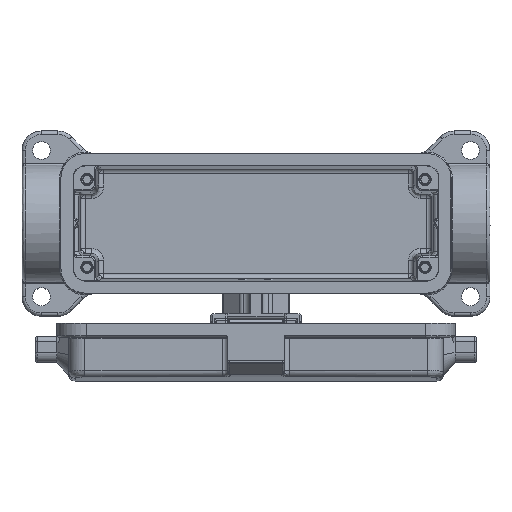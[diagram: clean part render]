
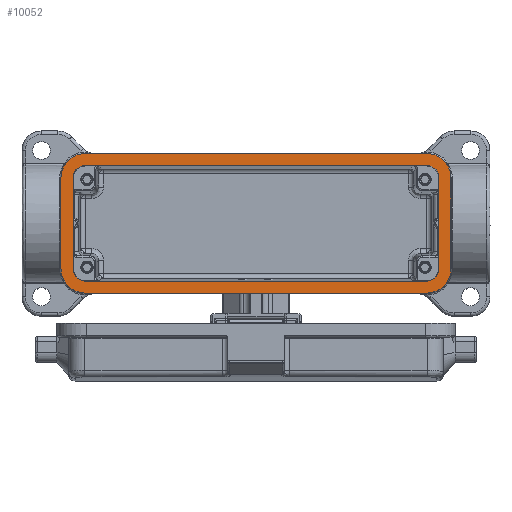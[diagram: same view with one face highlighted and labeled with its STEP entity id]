
A CAD part, top view. The second image highlights one B-rep face of the part: STEP entity #10052.
In plain terms, the highlighted planar face has unit normal (0, 0, 1) as drawn and (0, -1, 0) by its records, which use the part's own axes.
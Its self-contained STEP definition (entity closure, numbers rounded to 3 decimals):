
#439 = AXIS2_PLACEMENT_3D ( 'NONE', #68132, #91449, #127993 ) ;
#1528 = CARTESIAN_POINT ( 'NONE',  ( -14., 0., -60. ) ) ;
#1862 = EDGE_CURVE ( 'NONE', #65655, #12103, #150666, .T. ) ;
#2056 = DIRECTION ( 'NONE',  ( 0., 0., -1. ) ) ;
#2497 = CARTESIAN_POINT ( 'NONE',  ( -14., 0., -56.3 ) ) ;
#3008 = EDGE_CURVE ( 'NONE', #55936, #139592, #142916, .T. ) ;
#3727 = DIRECTION ( 'NONE',  ( -1., 0., 0. ) ) ;
#4772 = CIRCLE ( 'NONE', #9766, 7.5 ) ;
#5266 = DIRECTION ( 'NONE',  ( 0., 0., 1. ) ) ;
#5955 = DIRECTION ( 'NONE',  ( 0., 1., 0. ) ) ;
#7288 = DIRECTION ( 'NONE',  ( 0., 0., 1. ) ) ;
#9766 = AXIS2_PLACEMENT_3D ( 'NONE', #147533, #123233, #2056 ) ;
#10052 = ADVANCED_FACE ( 'NONE', ( #25237, #148206 ), #87172, .F. ) ;
#11899 = CARTESIAN_POINT ( 'NONE',  ( 0., 0., 60. ) ) ;
#12004 = CARTESIAN_POINT ( 'NONE',  ( -21.5, 0., 52.5 ) ) ;
#12008 = AXIS2_PLACEMENT_3D ( 'NONE', #78158, #41139, #53306 ) ;
#12103 = VERTEX_POINT ( 'NONE', #86994 ) ;
#15625 = CARTESIAN_POINT ( 'NONE',  ( -21.5, 0., -52.5 ) ) ;
#17872 = CARTESIAN_POINT ( 'NONE',  ( -21.5, 0., 0. ) ) ;
#19612 = EDGE_CURVE ( 'NONE', #73640, #115511, #28463, .T. ) ;
#20273 = VERTEX_POINT ( 'NONE', #66301 ) ;
#23162 = VERTEX_POINT ( 'NONE', #1528 ) ;
#24056 = EDGE_CURVE ( 'NONE', #46808, #60712, #54737, .T. ) ;
#25237 = FACE_BOUND ( 'NONE', #121947, .T. ) ;
#25521 = DIRECTION ( 'NONE',  ( 0., -1., 0. ) ) ;
#26453 = VERTEX_POINT ( 'NONE', #117655 ) ;
#28463 = LINE ( 'NONE', #11899, #34089 ) ;
#34089 = VECTOR ( 'NONE', #72191, 1000. ) ;
#36641 = DIRECTION ( 'NONE',  ( 1., 0., 0. ) ) ;
#37701 = DIRECTION ( 'NONE',  ( 0., 0., 1. ) ) ;
#38533 = CARTESIAN_POINT ( 'NONE',  ( 17.8, 0., -52.5 ) ) ;
#38611 = CIRCLE ( 'NONE', #70167, 3.8 ) ;
#38891 = VECTOR ( 'NONE', #79340, 1000. ) ;
#38955 = ORIENTED_EDGE ( 'NONE', *, *, #3008, .F. ) ;
#40958 = DIRECTION ( 'NONE',  ( -1., 0., 0. ) ) ;
#41139 = DIRECTION ( 'NONE',  ( 0., 1., 0. ) ) ;
#44988 = VECTOR ( 'NONE', #36641, 1000. ) ;
#46448 = CARTESIAN_POINT ( 'NONE',  ( 21.5, 0., -52.5 ) ) ;
#46808 = VERTEX_POINT ( 'NONE', #15625 ) ;
#47989 = VECTOR ( 'NONE', #82212, 1000. ) ;
#48242 = ORIENTED_EDGE ( 'NONE', *, *, #127050, .F. ) ;
#49062 = VECTOR ( 'NONE', #40958, 1000. ) ;
#49323 = AXIS2_PLACEMENT_3D ( 'NONE', #135849, #112544, #73930 ) ;
#49843 = CARTESIAN_POINT ( 'NONE',  ( 0., 0., -56.3 ) ) ;
#50190 = CIRCLE ( 'NONE', #104092, 7.5 ) ;
#53306 = DIRECTION ( 'NONE',  ( 0., 0., 1. ) ) ;
#54737 = LINE ( 'NONE', #17872, #67936 ) ;
#55798 = CIRCLE ( 'NONE', #146493, 3.8 ) ;
#55936 = VERTEX_POINT ( 'NONE', #129270 ) ;
#56068 = AXIS2_PLACEMENT_3D ( 'NONE', #102771, #5955, #150393 ) ;
#56654 = CARTESIAN_POINT ( 'NONE',  ( -17.8, 0., 52.5 ) ) ;
#57472 = CARTESIAN_POINT ( 'NONE',  ( -14., 0., 52.5 ) ) ;
#58271 = EDGE_CURVE ( 'NONE', #128569, #23162, #113486, .T. ) ;
#59159 = DIRECTION ( 'NONE',  ( 0., 0., 1. ) ) ;
#60337 = ORIENTED_EDGE ( 'NONE', *, *, #128133, .F. ) ;
#60712 = VERTEX_POINT ( 'NONE', #12004 ) ;
#62542 = CARTESIAN_POINT ( 'NONE',  ( -14., 0., 52.5 ) ) ;
#64367 = EDGE_CURVE ( 'NONE', #119608, #26453, #82769, .T. ) ;
#65655 = VERTEX_POINT ( 'NONE', #56654 ) ;
#66301 = CARTESIAN_POINT ( 'NONE',  ( -14., 0., 56.3 ) ) ;
#67936 = VECTOR ( 'NONE', #7288, 1000. ) ;
#68132 = CARTESIAN_POINT ( 'NONE',  ( 14., 0., -52.5 ) ) ;
#70167 = AXIS2_PLACEMENT_3D ( 'NONE', #144868, #107351, #59159 ) ;
#72191 = DIRECTION ( 'NONE',  ( 1., 0., 0. ) ) ;
#72657 = EDGE_CURVE ( 'NONE', #115511, #97335, #4772, .T. ) ;
#72698 = VERTEX_POINT ( 'NONE', #38533 ) ;
#73640 = VERTEX_POINT ( 'NONE', #78173 ) ;
#73930 = DIRECTION ( 'NONE',  ( 0., 0., 1. ) ) ;
#75270 = EDGE_CURVE ( 'NONE', #20273, #65655, #55798, .T. ) ;
#78158 = CARTESIAN_POINT ( 'NONE',  ( 0., 0., 0. ) ) ;
#78173 = CARTESIAN_POINT ( 'NONE',  ( -14., 0., 60. ) ) ;
#79340 = DIRECTION ( 'NONE',  ( 0., 0., -1. ) ) ;
#81537 = ORIENTED_EDGE ( 'NONE', *, *, #24056, .F. ) ;
#82212 = DIRECTION ( 'NONE',  ( 0., 0., -1. ) ) ;
#82769 = LINE ( 'NONE', #49843, #44988 ) ;
#83420 = CARTESIAN_POINT ( 'NONE',  ( 14., 0., 56.3 ) ) ;
#86994 = CARTESIAN_POINT ( 'NONE',  ( -17.8, 0., -52.5 ) ) ;
#87172 = PLANE ( 'NONE',  #12008 ) ;
#88045 = EDGE_LOOP ( 'NONE', ( #140519, #146479, #109787, #143084, #133076, #105053, #152987, #81537 ) ) ;
#88844 = CARTESIAN_POINT ( 'NONE',  ( 17.8, 0., 0. ) ) ;
#91449 = DIRECTION ( 'NONE',  ( 0., -1., 0. ) ) ;
#92996 = DIRECTION ( 'NONE',  ( 0., 1., 0. ) ) ;
#93991 = DIRECTION ( 'NONE',  ( 0., 1., 0. ) ) ;
#94990 = CIRCLE ( 'NONE', #439, 3.8 ) ;
#97335 = VERTEX_POINT ( 'NONE', #147494 ) ;
#97593 = CARTESIAN_POINT ( 'NONE',  ( 21.5, 0., 0. ) ) ;
#98653 = CARTESIAN_POINT ( 'NONE',  ( 0., 0., -60. ) ) ;
#102771 = CARTESIAN_POINT ( 'NONE',  ( 14., 0., -52.5 ) ) ;
#103601 = DIRECTION ( 'NONE',  ( 0., 0., -1. ) ) ;
#104092 = AXIS2_PLACEMENT_3D ( 'NONE', #57472, #93991, #104594 ) ;
#104228 = EDGE_CURVE ( 'NONE', #60712, #73640, #50190, .T. ) ;
#104594 = DIRECTION ( 'NONE',  ( 0., 0., -1. ) ) ;
#104839 = ORIENTED_EDGE ( 'NONE', *, *, #134410, .F. ) ;
#105053 = ORIENTED_EDGE ( 'NONE', *, *, #19612, .F. ) ;
#106834 = LINE ( 'NONE', #148673, #142805 ) ;
#107351 = DIRECTION ( 'NONE',  ( 0., -1., 0. ) ) ;
#109749 = ORIENTED_EDGE ( 'NONE', *, *, #1862, .F. ) ;
#109787 = ORIENTED_EDGE ( 'NONE', *, *, #133168, .F. ) ;
#112544 = DIRECTION ( 'NONE',  ( 0., -1., 0. ) ) ;
#113486 = LINE ( 'NONE', #98653, #49062 ) ;
#113595 = AXIS2_PLACEMENT_3D ( 'NONE', #128488, #92996, #103601 ) ;
#115511 = VERTEX_POINT ( 'NONE', #143451 ) ;
#117505 = LINE ( 'NONE', #88844, #136460 ) ;
#117655 = CARTESIAN_POINT ( 'NONE',  ( 14., 0., -56.3 ) ) ;
#119608 = VERTEX_POINT ( 'NONE', #2497 ) ;
#121947 = EDGE_LOOP ( 'NONE', ( #60337, #38955, #130347, #104839, #132000, #48242, #109749, #138007 ) ) ;
#123233 = DIRECTION ( 'NONE',  ( 0., 1., 0. ) ) ;
#123543 = CIRCLE ( 'NONE', #56068, 7.5 ) ;
#124367 = CARTESIAN_POINT ( 'NONE',  ( 14., 0., -60. ) ) ;
#124913 = CARTESIAN_POINT ( 'NONE',  ( -17.8, 0., 0. ) ) ;
#127050 = EDGE_CURVE ( 'NONE', #12103, #119608, #38611, .T. ) ;
#127993 = DIRECTION ( 'NONE',  ( 0., 0., 1. ) ) ;
#128133 = EDGE_CURVE ( 'NONE', #139592, #20273, #106834, .T. ) ;
#128488 = CARTESIAN_POINT ( 'NONE',  ( -14., 0., -52.5 ) ) ;
#128569 = VERTEX_POINT ( 'NONE', #124367 ) ;
#128867 = VERTEX_POINT ( 'NONE', #46448 ) ;
#129270 = CARTESIAN_POINT ( 'NONE',  ( 17.8, 0., 52.5 ) ) ;
#130347 = ORIENTED_EDGE ( 'NONE', *, *, #139024, .F. ) ;
#132000 = ORIENTED_EDGE ( 'NONE', *, *, #64367, .F. ) ;
#133076 = ORIENTED_EDGE ( 'NONE', *, *, #72657, .F. ) ;
#133168 = EDGE_CURVE ( 'NONE', #128867, #128569, #123543, .T. ) ;
#134410 = EDGE_CURVE ( 'NONE', #26453, #72698, #94990, .T. ) ;
#135849 = CARTESIAN_POINT ( 'NONE',  ( 14., 0., 52.5 ) ) ;
#136460 = VECTOR ( 'NONE', #5266, 1000. ) ;
#138007 = ORIENTED_EDGE ( 'NONE', *, *, #75270, .F. ) ;
#139024 = EDGE_CURVE ( 'NONE', #72698, #55936, #117505, .T. ) ;
#139592 = VERTEX_POINT ( 'NONE', #83420 ) ;
#140519 = ORIENTED_EDGE ( 'NONE', *, *, #155911, .F. ) ;
#140991 = LINE ( 'NONE', #97593, #47989 ) ;
#142805 = VECTOR ( 'NONE', #3727, 1000. ) ;
#142916 = CIRCLE ( 'NONE', #49323, 3.8 ) ;
#143084 = ORIENTED_EDGE ( 'NONE', *, *, #156868, .F. ) ;
#143451 = CARTESIAN_POINT ( 'NONE',  ( 14., 0., 60. ) ) ;
#144868 = CARTESIAN_POINT ( 'NONE',  ( -14., 0., -52.5 ) ) ;
#146479 = ORIENTED_EDGE ( 'NONE', *, *, #58271, .F. ) ;
#146493 = AXIS2_PLACEMENT_3D ( 'NONE', #62542, #25521, #37701 ) ;
#147494 = CARTESIAN_POINT ( 'NONE',  ( 21.5, 0., 52.5 ) ) ;
#147533 = CARTESIAN_POINT ( 'NONE',  ( 14., 0., 52.5 ) ) ;
#148206 = FACE_OUTER_BOUND ( 'NONE', #88045, .T. ) ;
#148673 = CARTESIAN_POINT ( 'NONE',  ( 0., 0., 56.3 ) ) ;
#150360 = CIRCLE ( 'NONE', #113595, 7.5 ) ;
#150393 = DIRECTION ( 'NONE',  ( 0., 0., -1. ) ) ;
#150666 = LINE ( 'NONE', #124913, #38891 ) ;
#152987 = ORIENTED_EDGE ( 'NONE', *, *, #104228, .F. ) ;
#155911 = EDGE_CURVE ( 'NONE', #23162, #46808, #150360, .T. ) ;
#156868 = EDGE_CURVE ( 'NONE', #97335, #128867, #140991, .T. ) ;
